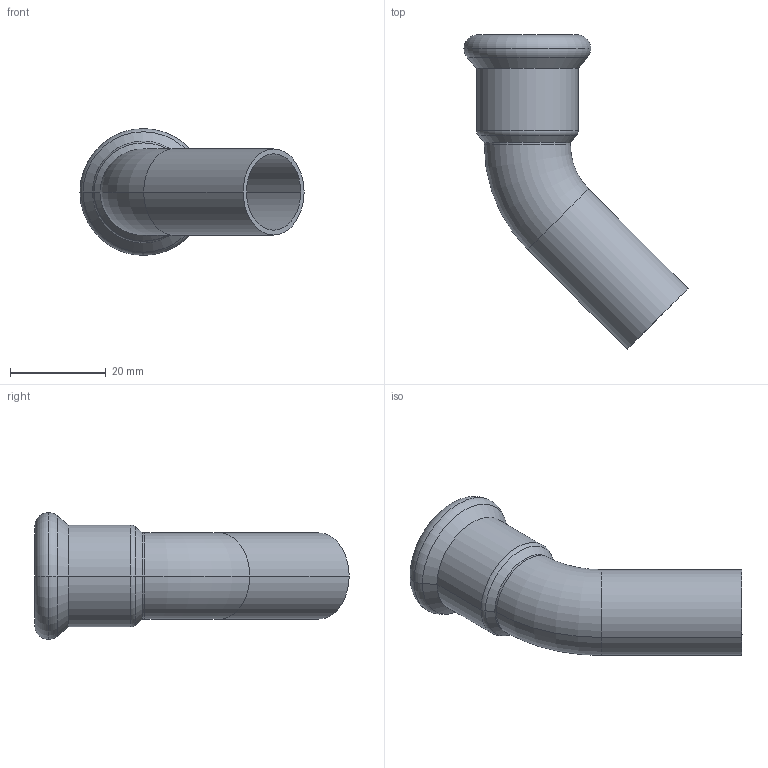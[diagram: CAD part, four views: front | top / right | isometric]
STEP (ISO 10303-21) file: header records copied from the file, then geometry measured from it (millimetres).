
FILE_DESCRIPTION(('OneSpaceDesigner STEP Export'),'2;1');
FILE_NAME('R2712 18x18.stp','2010-06-09T15:19:55',(''),(''),'OneSpace Designer STEP processor for AP214 (Solid Model)','OneSpace Modeling 15.00A 14-Mar-2007 (C) CoCreate Software GmbH','');
FILE_SCHEMA(('AUTOMOTIVE_DESIGN { 1 0 10303 214 1 1 1 1 }'));
Length unit declared in the file: millimetre
Products named in the file (2): R2712_18x18
Assembly tree (1 placements, depth 2):
  R2712_18x18
    R2712_18x18
Bounding box: 46.84 x 65.69 x 26.5 mm (x, y, z)
Volume: 5680.7 mm3; surface area: 8682.8 mm2
Topology: 1 solids, 1 shells, 68 faces, 167 edges, 106 vertices
Faces by surface type: plane 31, cylinder 23, torus 10, cone 4
Entity records: 1823 total; most frequent: ORIENTED_EDGE 334, CARTESIAN_POINT 292, DIRECTION 279, EDGE_CURVE 167, VERTEX_POINT 106, AXIS2_PLACEMENT_3D 93, VECTOR 93, LINE 93
